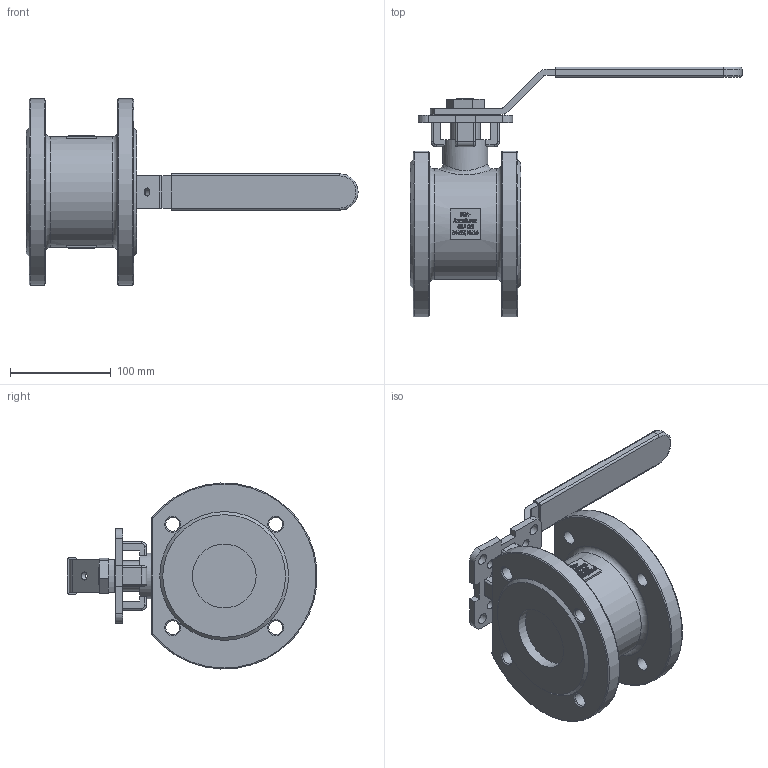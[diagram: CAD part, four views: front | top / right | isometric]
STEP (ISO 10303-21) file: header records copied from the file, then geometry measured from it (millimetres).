
FILE_DESCRIPTION((''),'2;1');
FILE_NAME('K:\Inventor\1 Artikel\12) Flanschen-Kugelhähne\12a) manuell\Econosto\437-GS, 7343\437-GS, DN65\437-GS, DN65, 3D\437-GS, DN65, PN16, HH, 3D.stp','2019-11-11T10:32:10',('claudia'),(''),'Autodesk Inventor 2013','Autodesk Inventor 2013','');
FILE_SCHEMA(('AUTOMOTIVE_DESIGN { 1 0 10303 214 1 1 1 1 }'));
Length unit declared in the file: millimetre
Products named in the file (1): Bauteil7
Bounding box: 330.01 x 248.29 x 184.88 mm (x, y, z)
Volume: 1709163.4 mm3; surface area: 188096.6 mm2
Topology: 1 solids, 1 shells, 1353 faces, 3694 edges, 2447 vertices
Faces by surface type: plane 723, bspline 520, cylinder 76, torus 24, cone 10
Full cylindrical faces by diameter (mm): 8 x2, 9 x4, 11 x4, 13.835 x8, 30 x1, 45 x1, 54 x1, 63.5 x2, 110 x1
Entity records: 47939 total; most frequent: CARTESIAN_POINT 16047, ORIENTED_EDGE 7290, DIRECTION 4475, EDGE_CURVE 3645, VERTEX_POINT 2435, VECTOR 2387, LINE 2387, EDGE_LOOP 1538
